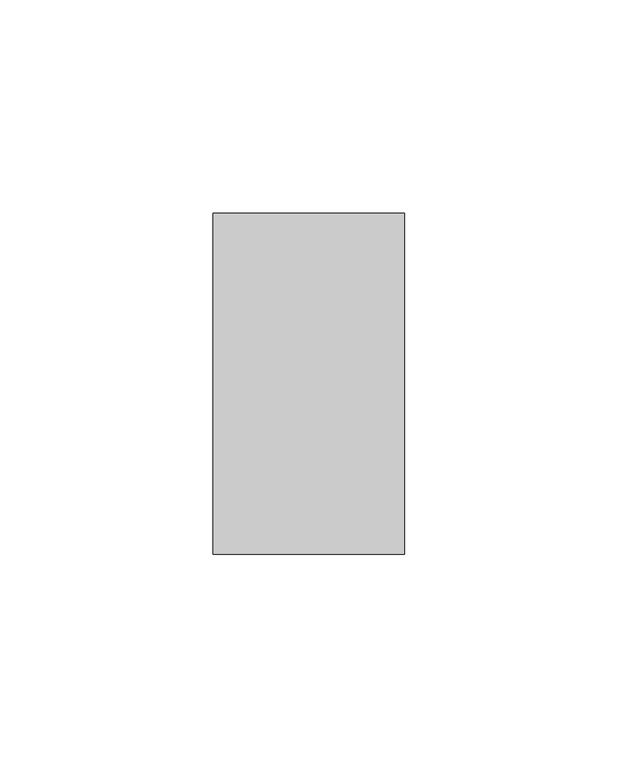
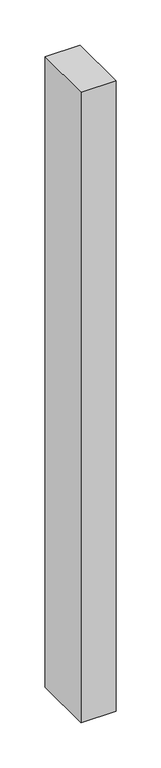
"""IFC4 building model written with IfcOpenShell, lengths in millimetres: member geometry, Obdélníková příčel : VERTI ELEMENT - vertikální."""

from ifc_helpers import new_model, si_unit, frame, origin, place, context, project, spatial, polyline, outline, extrude, source, transform, mapped, element, save


def member_dbbfbf54(model_context):
    return source(origin(), model_context, "Body", "SweptSolid", [
        extrude(outline(polyline([(0.0, 40.0), (0.0, -40.0), (-45.0, -40.0), (-45.0, 40.0), (0.0, 40.0)])), frame((0.0, 0.0, -855.0), z_axis=(0.0, 0.0, 1.0), x_axis=(1.0, 0.0, 0.0)), (0.0, 0.0, 1.0), 855.0),
    ])


if __name__ == "__main__":
    model = new_model("IFC4")
    model_context = context("Model", 3, world=origin())
    ifc_project = project(units=[si_unit("LENGTHUNIT", "METRE", prefix="MILLI")], contexts=[model_context])
    site = spatial("IfcSite", under=ifc_project)
    building = spatial("IfcBuilding", under=site)
    placement = place(None, origin())
    member_shape = member_dbbfbf54(model_context)
    element("IfcMember", 1, ObjectType="Obdélníková příčel : VERTI ELEMENT - vertikální", at=placement, inside=building, context=model_context, shape_type="MappedRepresentation", body=[
        mapped(member_shape, transform((0.0, 0.0, 0.0), x_axis=(1.0, 0.0, 0.0), y_axis=(0.0, 1.0, 0.0), z_axis=(0.0, 0.0, 1.0))),
    ])
    save(model, "model.ifc")
